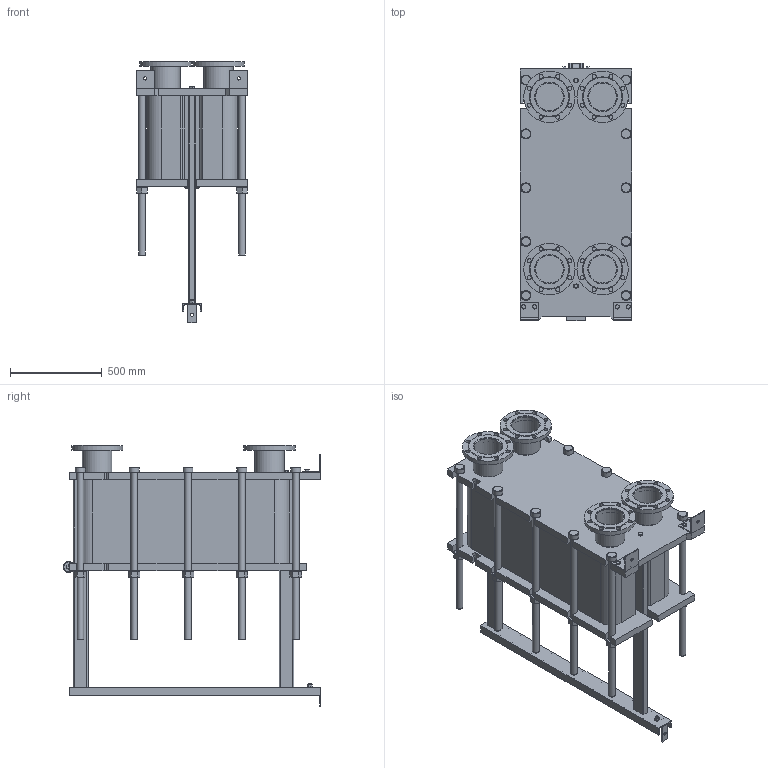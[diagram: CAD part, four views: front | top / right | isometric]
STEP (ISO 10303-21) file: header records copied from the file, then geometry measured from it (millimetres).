
FILE_DESCRIPTION(/* description */ (''),/* implementation_level */ '2;1');
FILE_NAME(/* name */ 'C:\Users\zhuro\Desktop\ENCO\TO\ЭН-041\ЭН-0,5-041-132-1.stp',/* time_stamp */ '2022-06-06T11:00:22+03:00',/* author */ ('zhuro'),/* organization */ (''),/* preprocessor_version */ 'ST-DEVELOPER v18.1',/* originating_system */ 'Autodesk Inventor 2022',/* authorisation */ '');
FILE_SCHEMA (('AUTOMOTIVE_DESIGN { 1 0 10303 214 3 1 1 }'));
Length unit declared in the file: millimetre
Products named in the file (1): ЭН-0,5-041-132-1
Bounding box: 610 x 1406.5 x 1430 mm (x, y, z)
Volume: 338855810.5 mm3; surface area: 9730084.9 mm2
Topology: 52 solids, 52 shells, 711 faces, 1696 edges, 1094 vertices
Faces by surface type: plane 487, cylinder 177, cone 41, torus 6
Full cylindrical faces by diameter (mm): 8 x4, 10 x2, 16 x8, 18 x3, 22 x32, 36 x24, 50 x1, 54 x10, 60 x12, 151 x4, 161 x8, 280 x4
Entity records: 22667 total; most frequent: CARTESIAN_POINT 5230, DIRECTION 3644, ORIENTED_EDGE 3392, EDGE_CURVE 1696, AXIS2_PLACEMENT_3D 1272, LINE 1100, VECTOR 1100, VERTEX_POINT 1094
